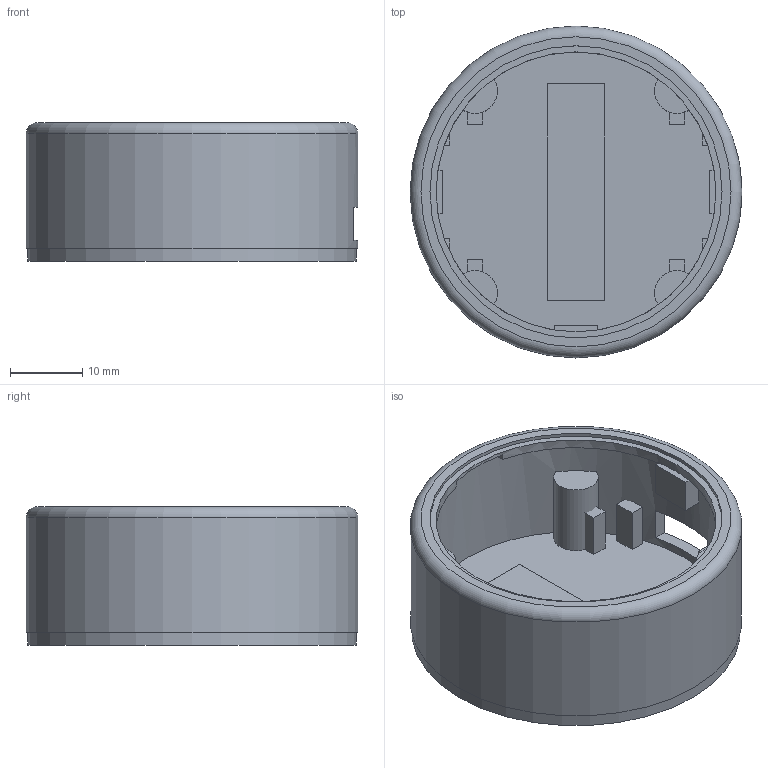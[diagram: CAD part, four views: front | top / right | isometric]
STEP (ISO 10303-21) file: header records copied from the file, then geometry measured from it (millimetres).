
FILE_DESCRIPTION(('Open CASCADE Model'),'2;1');
FILE_NAME('Open CASCADE Shape Model','2026-08-12T19:21:45',('Author'),( 'Open CASCADE'),'Open CASCADE STEP processor 7.9','Open CASCADE 7.9' ,'Unknown');
FILE_SCHEMA(('AUTOMOTIVE_DESIGN { 1 0 10303 214 1 1 1 1 }'));
Length unit declared in the file: millimetre
Products named in the file (3): Cirque_round_puck_stacked; top_shell; bottom_plate
Assembly tree (2 placements, depth 2):
  Cirque_round_puck_stacked
    top_shell
    bottom_plate
Bounding box: 46 x 46 x 19.2 mm (x, y, z)
Volume: 8414.1 mm3; surface area: 10504.6 mm2
Topology: 2 solids, 2 shells, 118 faces, 281 edges, 187 vertices
Faces by surface type: plane 92, cylinder 25, torus 1
Full cylindrical faces by diameter (mm): 2.4 x4, 3.2 x4, 4.3 x4, 10.4 x4, 38.8 x1, 40.5 x1, 42.6 x1, 45.6 x1, 46 x1
Entity records: 7234 total; most frequent: CARTESIAN_POINT 1543, DIRECTION 1035, LINE 601, VECTOR 601, ORIENTED_EDGE 562, PCURVE 562, DEFINITIONAL_REPRESENTATION 562, EDGE_CURVE 281
